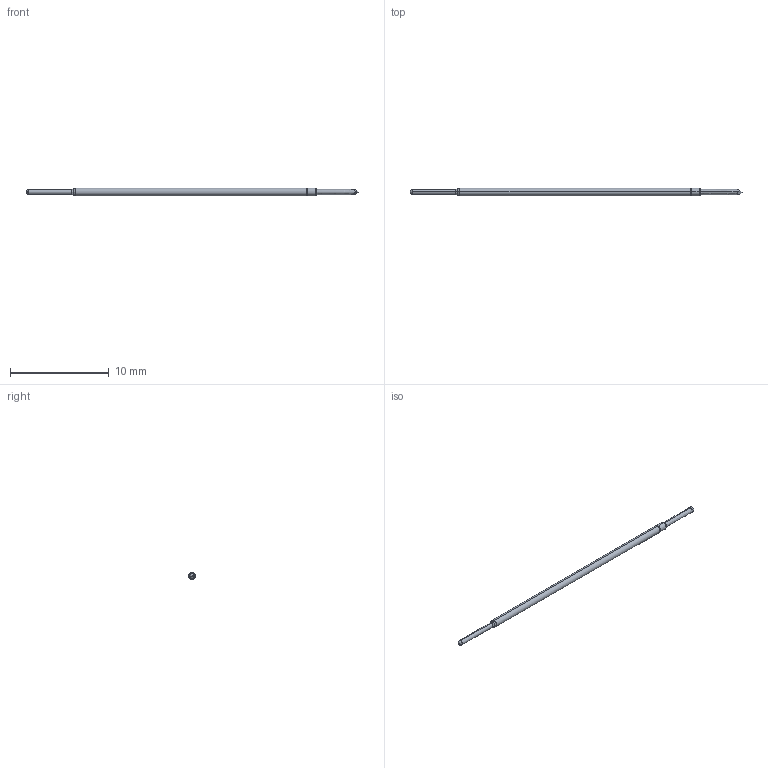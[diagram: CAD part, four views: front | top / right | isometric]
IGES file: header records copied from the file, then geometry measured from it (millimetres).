
Start section: SolidWorks IGES file using analytic representation for surfaces
Global section: file name: C:\Documents and Settings\mrumschlag\Desktop\changes\new\test\T20 RECD.IGS; native system: SolidWorks 2011; preprocessor: SolidWorks 2011; author: mrumschlag; date: 110630.142727; units: inch
Bounding box: 33.69 x 0.76 x 0.76 mm (x, y, z)
Surface area: 73.8 mm2 (no closed solid volume)
Topology: 0 solids, 0 shells, 26 faces, 162 edges, 160 vertices
Faces by surface type: revolution 14, bspline 12
